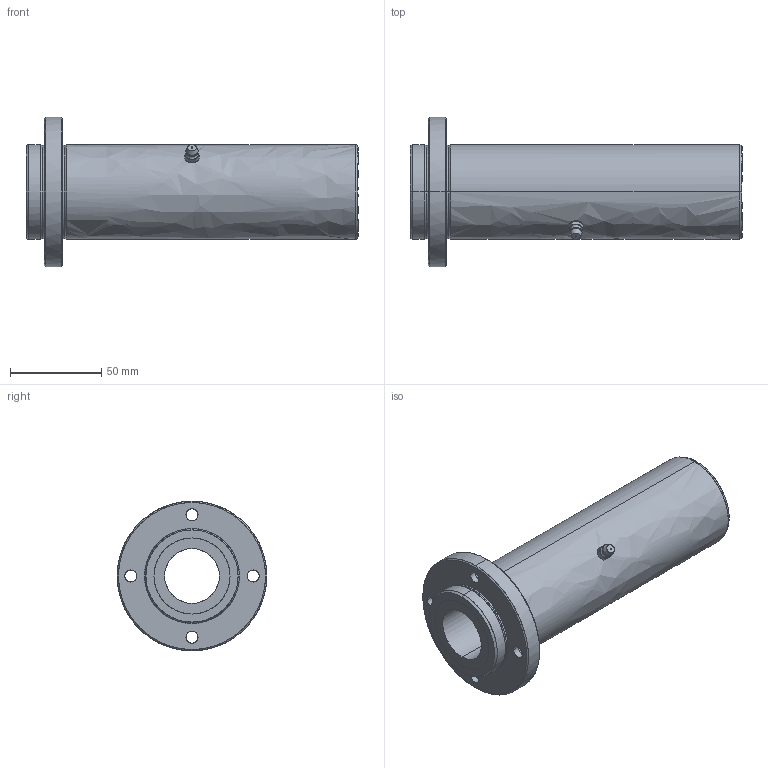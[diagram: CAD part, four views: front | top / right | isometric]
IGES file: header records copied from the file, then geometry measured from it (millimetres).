
Global section: file name: No Iges File Name specified; native system: AutoDesk Inventor R10; preprocessor: AutoDesk Inventor Iges Exporter R10; author: No Author specified; organization: No Organization specified; date: 20101211.162621; units: millimetre
Bounding box: 182 x 82 x 82 mm (x, y, z)
Surface area: 57819.9 mm2 (no closed solid volume)
Topology: 0 solids, 0 shells, 92 faces, 611 edges, 609 vertices
Faces by surface type: bspline 92
